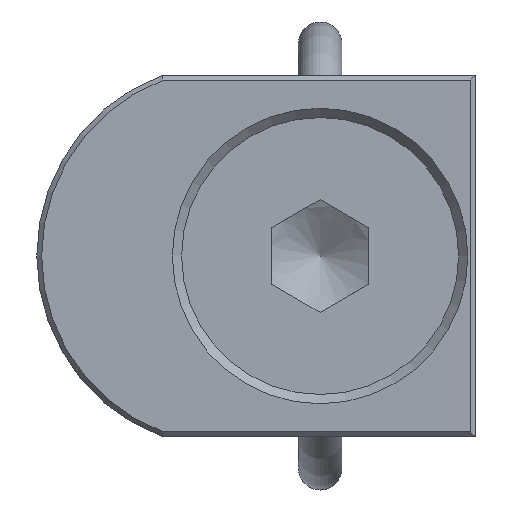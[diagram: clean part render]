
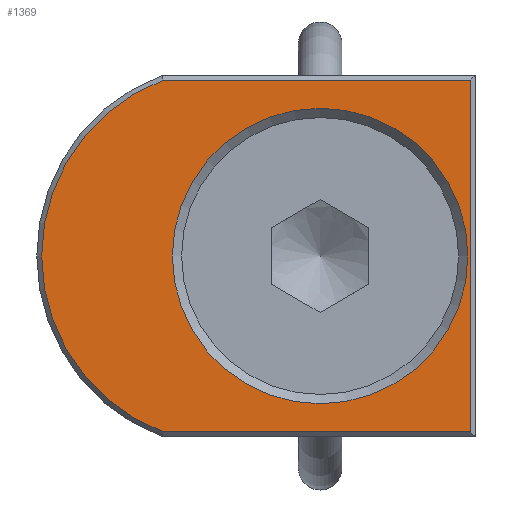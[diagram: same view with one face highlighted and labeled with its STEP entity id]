
A CAD part, front view. The second image highlights one B-rep face of the part: STEP entity #1369.
In plain terms, the highlighted planar face has unit normal (0, -1, 0).
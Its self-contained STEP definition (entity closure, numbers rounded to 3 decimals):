
#1118=CARTESIAN_POINT('',(6.05,-33.0,0.));
#1119=VERTEX_POINT('',#1118);
#1120=CARTESIAN_POINT('',(0.,-33.,0.));
#1121=DIRECTION('',(0.0,1.0,0.0));
#1122=DIRECTION('',(1.0,0.0,0.0));
#1123=AXIS2_PLACEMENT_3D('',#1120,#1121,#1122);
#1124=CIRCLE('',#1123,6.05);
#1125=EDGE_CURVE('',#1119,#1119,#1124,.T.);
#1138=CARTESIAN_POINT('',(6.15,-33.0,7.2));
#1139=VERTEX_POINT('',#1138);
#1140=CARTESIAN_POINT('',(6.15,-33.0,-7.2));
#1141=VERTEX_POINT('',#1140);
#1142=CARTESIAN_POINT('',(6.15,-33.0,7.2));
#1143=DIRECTION('',(0.0,0.0,-1.0));
#1144=VECTOR('',#1143,14.4);
#1145=LINE('',#1142,#1144);
#1146=EDGE_CURVE('',#1139,#1141,#1145,.T.);
#1178=CARTESIAN_POINT('',(-6.429,-33.,-7.2));
#1179=VERTEX_POINT('',#1178);
#1180=CARTESIAN_POINT('',(6.15,-33.0,-7.2));
#1181=DIRECTION('',(-1.0,0.0,0.0));
#1182=VECTOR('',#1181,12.579);
#1183=LINE('',#1180,#1182);
#1184=EDGE_CURVE('',#1141,#1179,#1183,.T.);
#1210=CARTESIAN_POINT('',(-6.429,-33.,7.2));
#1211=VERTEX_POINT('',#1210);
#1212=CARTESIAN_POINT('',(-3.7,-33.,0.));
#1213=DIRECTION('',(0.,1.0,0.));
#1214=DIRECTION('',(-0.35,0.,0.937));
#1215=AXIS2_PLACEMENT_3D('',#1212,#1213,#1214);
#1216=CIRCLE('',#1215,7.7);
#1217=EDGE_CURVE('',#1179,#1211,#1216,.T.);
#1244=CARTESIAN_POINT('',(-6.429,-33.,7.2));
#1245=DIRECTION('',(1.0,0.0,0.0));
#1246=VECTOR('',#1245,12.579);
#1247=LINE('',#1244,#1246);
#1248=EDGE_CURVE('',#1211,#1139,#1247,.T.);
#1355=CARTESIAN_POINT('',(-1.494,-33.,0.));
#1356=DIRECTION('',(0.0,1.0,0.0));
#1357=DIRECTION('',(0.0,0.0,1.0));
#1358=AXIS2_PLACEMENT_3D('',#1355,#1356,#1357);
#1359=PLANE('',#1358);
#1360=ORIENTED_EDGE('',*,*,#1146,.F.);
#1361=ORIENTED_EDGE('',*,*,#1248,.F.);
#1362=ORIENTED_EDGE('',*,*,#1217,.F.);
#1363=ORIENTED_EDGE('',*,*,#1184,.F.);
#1364=EDGE_LOOP('',(#1360,#1361,#1362,#1363));
#1365=FACE_OUTER_BOUND('',#1364,.T.);
#1366=ORIENTED_EDGE('',*,*,#1125,.T.);
#1367=EDGE_LOOP('',(#1366));
#1368=FACE_BOUND('',#1367,.T.);
#1369=ADVANCED_FACE('',(#1365,#1368),#1359,.F.);
